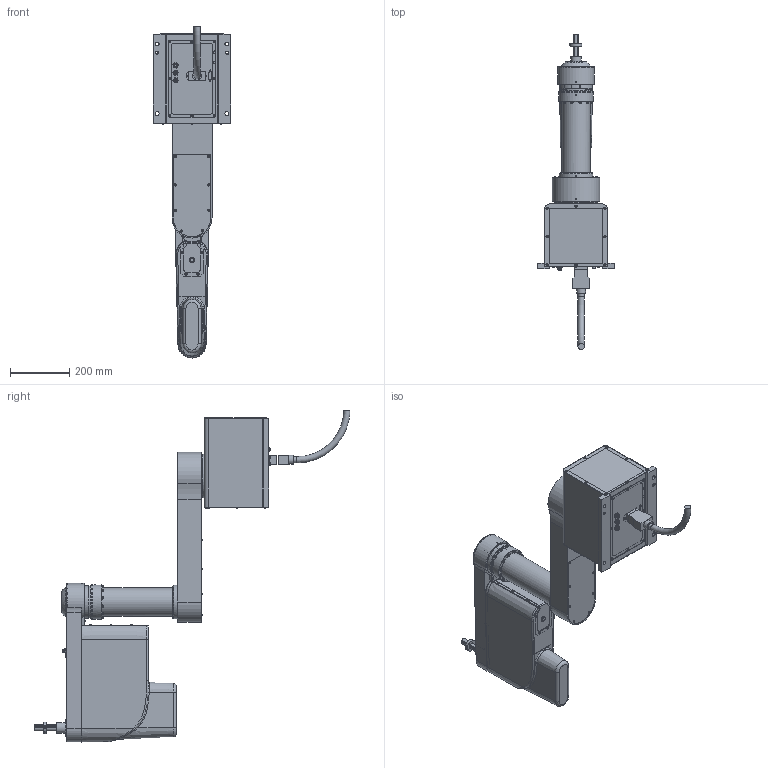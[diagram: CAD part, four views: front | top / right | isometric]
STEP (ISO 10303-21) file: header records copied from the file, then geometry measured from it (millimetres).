
FILE_DESCRIPTION (( 'STEP AP214' ), '1' );
FILE_NAME ('FR8320.STEP', '2020-07-24T08:53:35', ( '微软用户' ), ( '微软中国' ), 'SwSTEP 2.0', 'SolidWorks 2018', '' );
FILE_SCHEMA (( 'AUTOMOTIVE_DESIGN' ));
Length unit declared in the file: millimetre
Products named in the file (5): FR8320-菁釱郪璃; FR8320-E佪裝郪璃; FR8320-YZR粣窒璃-; FR8320-X旋Y旋蟀諉郪璃; FR8320
Assembly tree (4 placements, depth 2):
  FR8320
    FR8320-X旋Y旋蟀諉郪璃
    FR8320-YZR粣窒璃-
    FR8320-E佪裝郪璃
    FR8320-菁釱郪璃
Bounding box: 260 x 1065.5 x 1120.5 mm (x, y, z)
Surface area: 1630469.4 mm2 (no closed solid volume)
Topology: 0 solids, 253 shells, 1340 faces, 4664 edges, 3577 vertices
Faces by surface type: plane 798, cylinder 342, cone 63, bspline 61, torus 42, sphere 34
Full cylindrical faces by diameter (mm): 3 x4, 3.3 x20, 4 x2, 4.2 x4, 4.5 x24, 5 x19, 5.5 x34, 6 x7, 6.5 x4, 7 x2, 8 x15, 8.5 x12, 9 x18, 11 x4, 12 x6, 13 x4, 14 x7, 20 x1, 21 x2, 25 x3, 25.2 x1, 29 x4, 30 x1, 35 x1, 36 x1, 43.5 x1, 45 x1, 46.61 x1, 51.5 x1, 55 x1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
Entity records: 88720 total; most frequent: CARTESIAN_POINT 47058, DIRECTION 6997, ORIENTED_EDGE 5916, EDGE_CURVE 4170, VERTEX_POINT 3449, LINE 2421, VECTOR 2421, AXIS2_PLACEMENT_3D 2288
